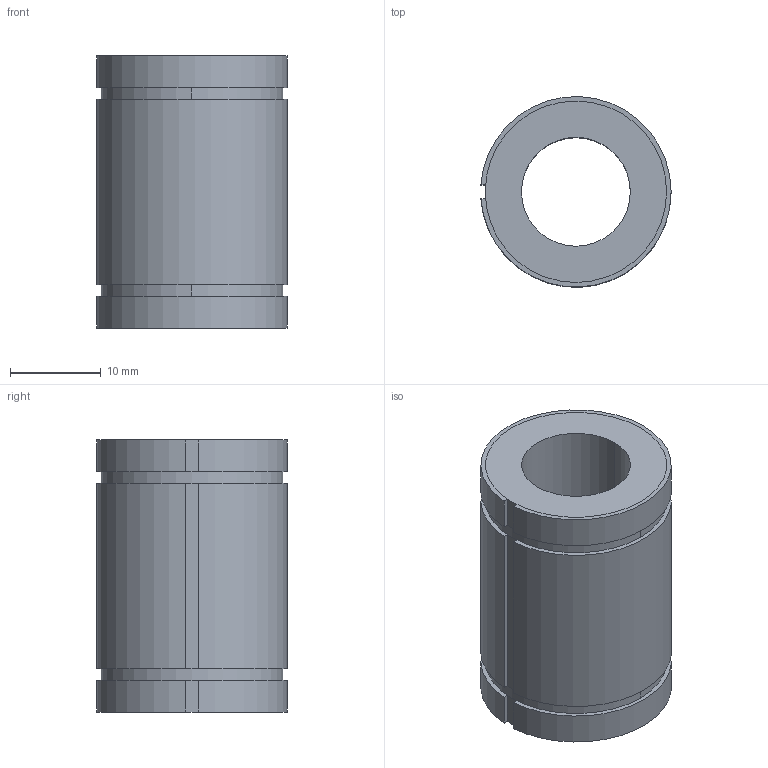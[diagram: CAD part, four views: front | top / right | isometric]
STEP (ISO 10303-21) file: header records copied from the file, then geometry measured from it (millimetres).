
FILE_DESCRIPTION((''),'2;1');
FILE_NAME('C:\Documents and Settings\ｿﾀﾀ蠑ｷ1\ｹﾙﾅﾁ ﾈｭｸ饅\ｺﾎﾇｰﾆﾄﾀﾏ\ﾁｦﾇｰ\LM__UUAJ\LM12UUAJ.stp','2005-06-14T16:23:50',('ｿﾀﾀ蠑ｷ1'),(''),'Autodesk Inventor 9','Autodesk Inventor 9','');
FILE_SCHEMA(('AUTOMOTIVE_DESIGN { 1 0 10303 214 1 1 1 1 }'));
Length unit declared in the file: millimetre
Products named in the file (1): LM__AJ
Bounding box: 20.97 x 20.99 x 30 mm (x, y, z)
Volume: 6894 mm3; surface area: 3718.8 mm2
Topology: 1 solids, 1 shells, 29 faces, 76 edges, 49 vertices
Faces by surface type: plane 17, cylinder 12
Entity records: 928 total; most frequent: DIRECTION 167, CARTESIAN_POINT 155, ORIENTED_EDGE 152, EDGE_CURVE 76, AXIS2_PLACEMENT_3D 61, VERTEX_POINT 49, VECTOR 45, LINE 45
